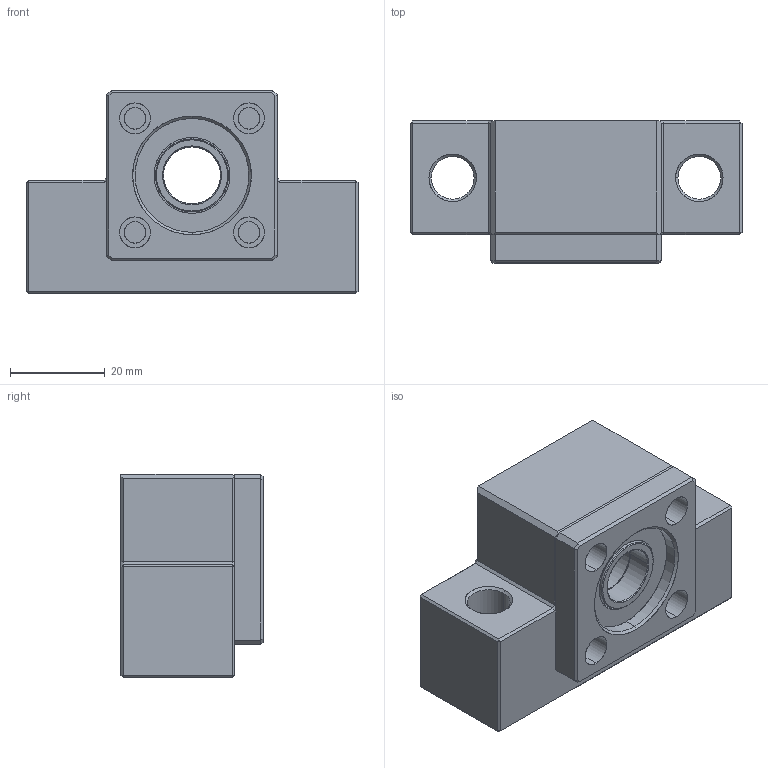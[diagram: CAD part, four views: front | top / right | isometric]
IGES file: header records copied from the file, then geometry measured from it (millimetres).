
Start section: SolidWorks IGES file using analytic representation for surfaces
Global section: file name: E:\同创达图纸\产品示意图\3D选型图\支撑座\EK系列\EK12.IGS; native system: SolidWorks 2012; preprocessor: SolidWorks 2012; author: gao; date: 130702.200818; units: millimetre
Bounding box: 70 x 30 x 43 mm (x, y, z)
Surface area: 15244.9 mm2 (no closed solid volume)
Topology: 0 solids, 0 shells, 147 faces, 1762 edges, 1762 vertices
Faces by surface type: bspline 81, revolution 66
